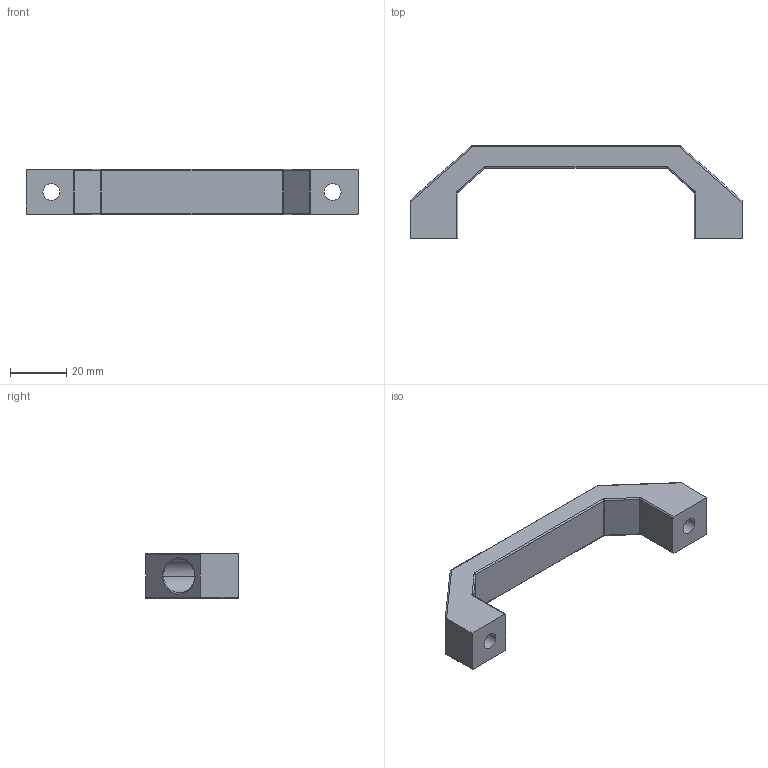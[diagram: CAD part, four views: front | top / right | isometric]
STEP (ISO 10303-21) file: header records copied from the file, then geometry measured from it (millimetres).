
FILE_DESCRIPTION (( 'STEP AP214' ), '1' );
FILE_NAME ('LS06.STEP', '2023-06-28T01:06:11', ( 'Windows 蚚誧' ), ( '' ), 'SwSTEP 2.0', 'SolidWorks 2019', '' );
FILE_SCHEMA (( 'AUTOMOTIVE_DESIGN' ));
Length unit declared in the file: millimetre
Products named in the file (1): LS06
Bounding box: 118 x 33 x 16 mm (x, y, z)
Volume: 18971.3 mm3; surface area: 9102.3 mm2
Topology: 1 solids, 1 shells, 64 faces, 150 edges, 86 vertices
Faces by surface type: cylinder 32, plane 16, torus 8, bspline 4, sphere 4
Entity records: 2750 total; most frequent: CARTESIAN_POINT 569, DIRECTION 322, ORIENTED_EDGE 292, EDGE_CURVE 146, AXIS2_PLACEMENT_3D 127, VERTEX_POINT 86, EDGE_LOOP 70, LINE 68
